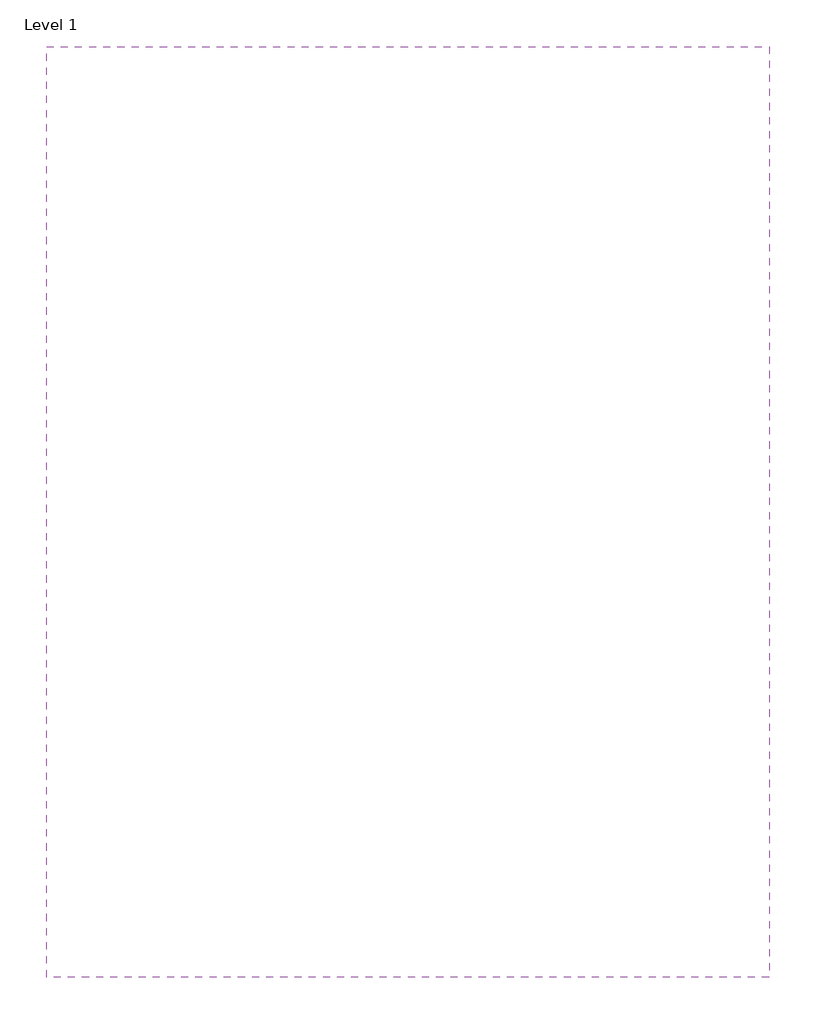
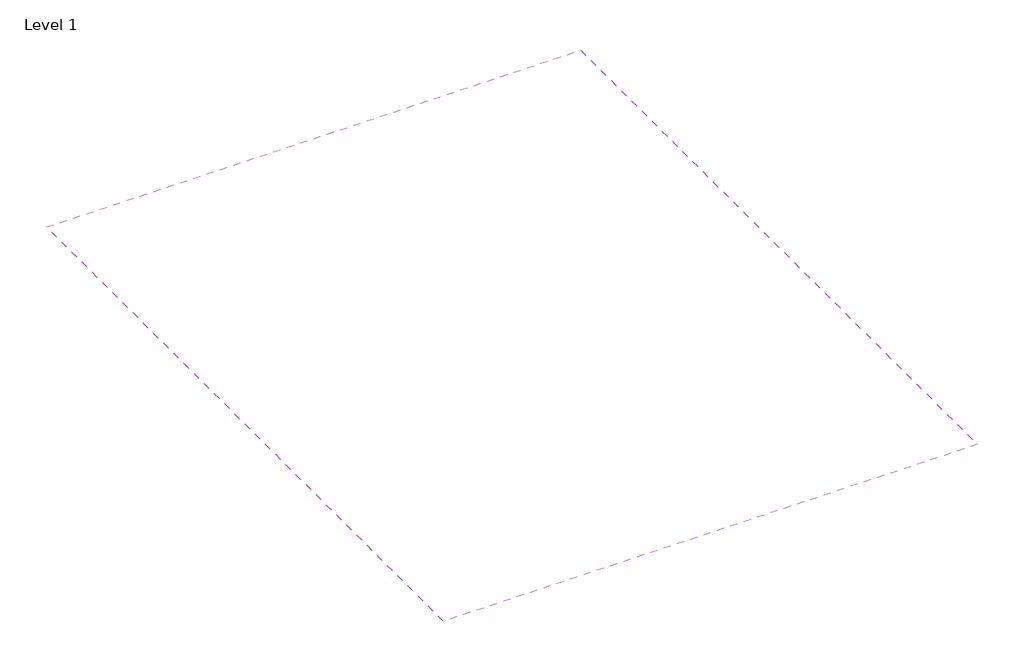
# One storey, incomplete: 1 covering.
"""IFC4 building model written with IfcOpenShell, lengths in millimetres."""

from ifc_helpers import new_model, si_unit, frame, origin, place, context, project, spatial, polyline, outline, extrude, element, save

model = new_model("IFC4")

# Units and contexts
model_context = context("Model", 3, world=origin())
ifc_project = project(units=[si_unit("LENGTHUNIT", "METRE", prefix="MILLI")], contexts=[model_context])

# Site, building, storey
site = spatial("IfcSite", under=ifc_project)
building = spatial("IfcBuilding", under=site)
storey = spatial("IfcBuildingStorey", under=building, Name="Level 1", Elevation=0.0)

# Covering
placement = place(None, origin())
element("IfcCovering", 1, ObjectType="Plain", at=placement, inside=storey, context=model_context, shape_type="SweptSolid", body=[
    extrude(outline(polyline([(6495.7612865, 14861.4558061), (6495.7612865, 4561.4558061), (-1504.2387135, 4561.4558061), (-1504.2387135, 14861.4558061), (6495.7612865, 14861.4558061)])), frame((0.0, 0.0, 2600.0), z_axis=(0.0, 0.0, 1.0), x_axis=(1.0, 0.0, 0.0)), (0.0, 0.0, 1.0), 57.0),
])

save(model, "model.ifc")
